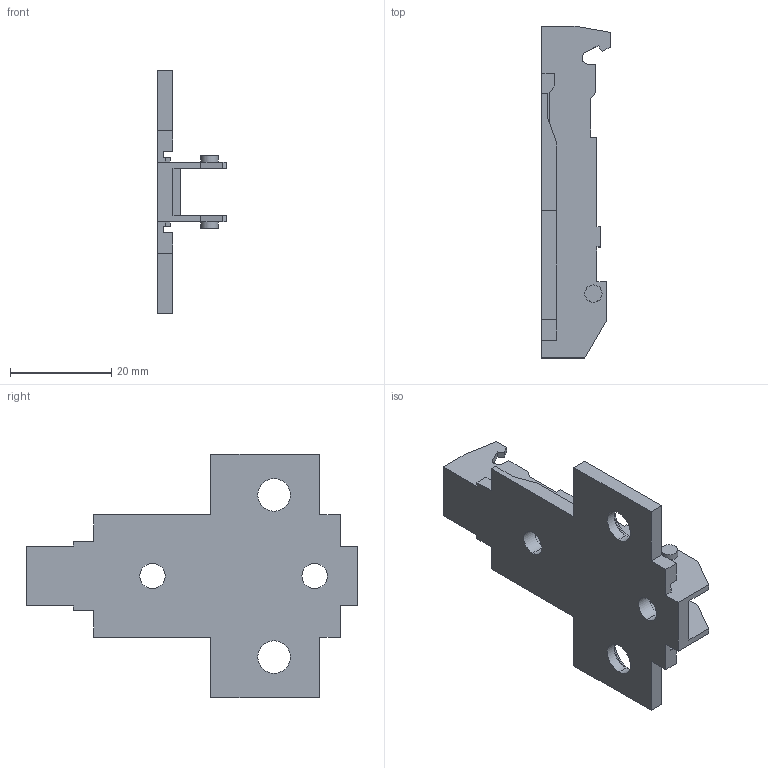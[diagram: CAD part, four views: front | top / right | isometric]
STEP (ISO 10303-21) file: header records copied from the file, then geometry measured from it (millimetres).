
FILE_DESCRIPTION (( 'STEP AP214' ), '1' );
FILE_NAME ('1D_Kreuzmontageplatte 28_32 Euro_3.step', '2010-11-18T10:18:46', ( 'grass' ), ( '' ), 'SwSTEP 2.0', 'SolidWorks 2010', '' );
FILE_SCHEMA (( 'AUTOMOTIVE_DESIGN' ));
Length unit declared in the file: millimetre
Products named in the file (1): 1D_Kreuzmontageplatte 28_32 Euro_3
Bounding box: 13.5 x 65.5 x 48 mm (x, y, z)
Volume: 6386.6 mm3; surface area: 6891.5 mm2
Topology: 1 solids, 1 shells, 108 faces, 304 edges, 200 vertices
Faces by surface type: plane 82, cylinder 22, cone 4
Entity records: 3498 total; most frequent: CARTESIAN_POINT 613, ORIENTED_EDGE 608, DIRECTION 566, EDGE_CURVE 304, VECTOR 260, LINE 260, VERTEX_POINT 200, AXIS2_PLACEMENT_3D 153
